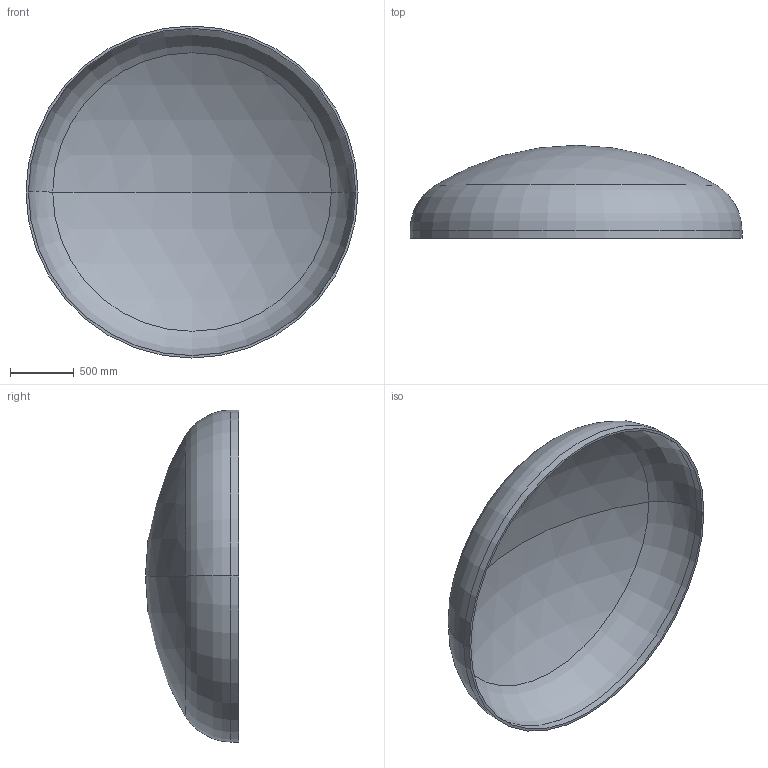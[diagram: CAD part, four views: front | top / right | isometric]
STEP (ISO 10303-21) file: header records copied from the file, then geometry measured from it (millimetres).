
FILE_DESCRIPTION (( 'STEP AP203' ), '1' );
FILE_NAME ('DIN 28013 Korbbogenform_-_Boden DIN 28013 - 2600 x 60 - I - s=19.step', '2016-07-01T15:58:01', ( '' ), ( '' ), 'SwSTEP 2.0', 'SolidWorks 2013', '' );
FILE_SCHEMA (( 'CONFIG_CONTROL_DESIGN' ));
Length unit declared in the file: millimetre
Products named in the file (1): DIN 28013 Korbbogenform_-_Boden DIN 28013 - 2600 x 60 - I - s=19
Bounding box: 2600 x 728.53 x 2600 mm (x, y, z)
Volume: 147587132.6 mm3; surface area: 15690298.3 mm2
Topology: 1 solids, 1 shells, 13 faces, 24 edges, 14 vertices
Faces by surface type: torus 4, cylinder 4, sphere 4, plane 1
Entity records: 407 total; most frequent: DIRECTION 72, CARTESIAN_POINT 52, ORIENTED_EDGE 48, AXIS2_PLACEMENT_3D 34, EDGE_CURVE 24, CIRCLE 20, VERTEX_POINT 14, EDGE_LOOP 14
